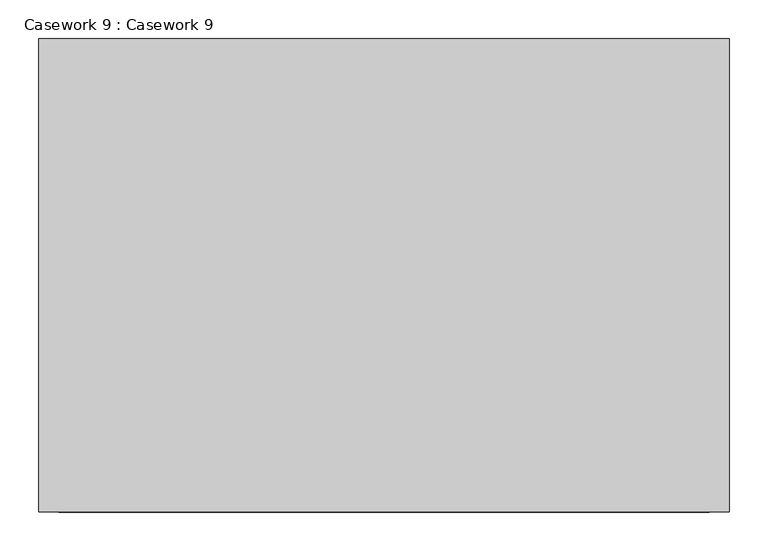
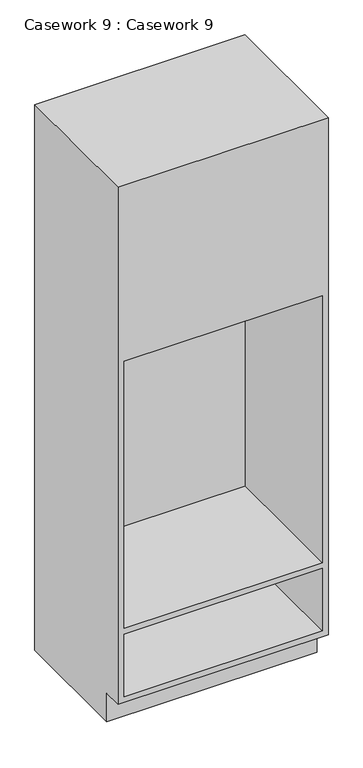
"""IFC4 building model written with IfcOpenShell, lengths in millimetres: furniture geometry, Casework 9 : Casework 9."""

from ifc_helpers import new_model, si_unit, origin, place, context, project, spatial, faceted_brep, source, transform, mapped, element, save


def casework_9_casework_9_88ae8665(model_context):
    return source(origin(), model_context, "Body", "Brep", [
        faceted_brep([(1625.4972395, 9436.1, 5689.6), (736.4972395, 9436.1, 5689.6), (736.4972395, 9436.1, 3379.7875), (1625.4972395, 9436.1, 3379.7875), (1600.0972395, 9436.1, 3709.9875), (761.8972395, 9436.1, 3709.9875), (761.8972395, 9436.1, 4903.7875), (1600.0972395, 9436.1, 4903.7875), (761.8972395, 9436.1, 3684.5875), (1600.0972395, 9436.1, 3684.5875), (1600.0972395, 9436.1, 3405.1875), (761.8972395, 9436.1, 3405.1875), (736.4972395, 10045.7, 5689.6), (1625.4972395, 10045.7, 5689.6), (1625.4972395, 10045.7, 3251.2), (736.4972395, 10045.7, 3251.2), (736.4972395, 9518.65, 3251.2), (736.4972395, 9518.65, 3379.7875), (1625.4972395, 9518.65, 3251.2), (1625.4972395, 9518.65, 3379.7875), (1600.0972395, 10001.25, 3709.9875), (1600.0972395, 10001.25, 4903.7875), (761.8972395, 10001.25, 4903.7875), (761.8972395, 10001.25, 3709.9875), (761.8972395, 10001.25, 3684.5875), (761.8972395, 10001.25, 3405.1875), (1600.0972395, 10001.25, 3405.1875), (1600.0972395, 10001.25, 3684.5875)], [[[0, 1, 2, 3], [4, 5, 6, 7], [8, 9, 10, 11]], [[12, 13, 14, 15]], [[12, 15, 16, 17, 2, 1]], [[15, 14, 18, 16]], [[14, 13, 0, 3, 19, 18]], [[1, 0, 13, 12]], [[20, 21, 22, 23]], [[24, 25, 26, 27]], [[20, 23, 5, 4]], [[23, 22, 6, 5]], [[22, 21, 7, 6]], [[21, 20, 4, 7]], [[24, 27, 9, 8]], [[27, 26, 10, 9]], [[26, 25, 11, 10]], [[25, 24, 8, 11]], [[19, 17, 16, 18]], [[17, 19, 3, 2]]]),
    ])


if __name__ == "__main__":
    model = new_model("IFC4")
    model_context = context("Model", 3, world=origin())
    ifc_project = project(units=[si_unit("LENGTHUNIT", "METRE", prefix="MILLI")], contexts=[model_context])
    site = spatial("IfcSite", under=ifc_project)
    building = spatial("IfcBuilding", under=site)
    placement = place(None, origin())
    casework_9_casework_9_shape = casework_9_casework_9_88ae8665(model_context)
    element("IfcFurniture", 1, ObjectType="Casework 9 : Casework 9", at=placement, inside=building, context=model_context, shape_type="MappedRepresentation", body=[
        mapped(casework_9_casework_9_shape, transform((0.0, 0.0, 0.0), x_axis=(1.0, 0.0, 0.0), y_axis=(0.0, 1.0, 0.0), z_axis=(0.0, 0.0, 1.0))),
    ])
    save(model, "model.ifc")
